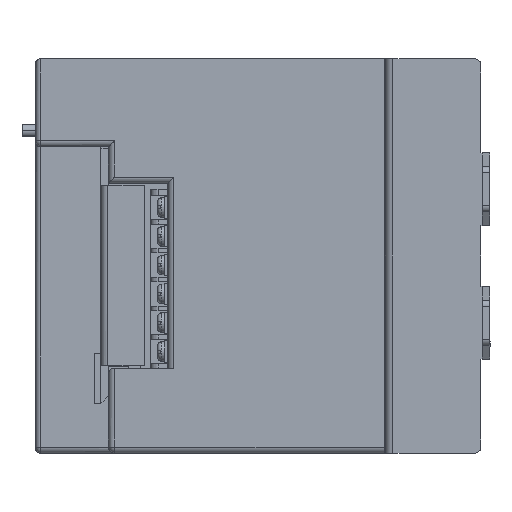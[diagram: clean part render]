
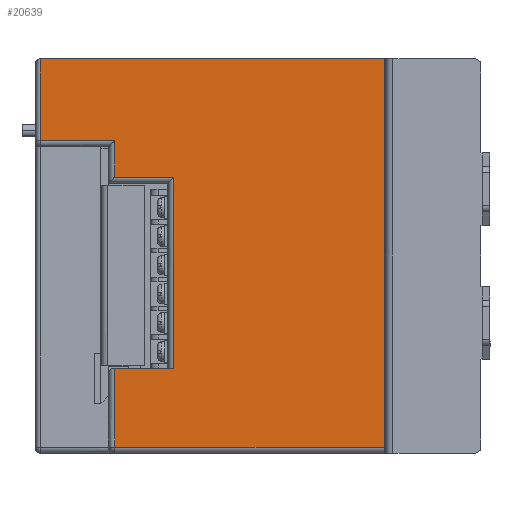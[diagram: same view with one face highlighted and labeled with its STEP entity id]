
A CAD part, left-side view. The second image highlights one B-rep face of the part: STEP entity #20639.
In plain terms, the highlighted planar face has unit normal (-1, 0, 0) as drawn and (0, 1, 0) by its records, which use the part's own axes.
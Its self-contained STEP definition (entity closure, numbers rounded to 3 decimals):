
#1288 = VECTOR ( 'NONE', #24899, 1000. ) ;
#3848 = EDGE_CURVE ( 'NONE', #20329, #10426, #8574, .T. ) ;
#4516 = ORIENTED_EDGE ( 'NONE', *, *, #8361, .F. ) ;
#4569 = CARTESIAN_POINT ( 'NONE',  ( 63., 88., 0. ) ) ;
#4937 = DIRECTION ( 'NONE',  ( 0., 0., 1. ) ) ;
#5532 = DIRECTION ( 'NONE',  ( 0., 0., 1. ) ) ;
#5680 = ORIENTED_EDGE ( 'NONE', *, *, #16944, .F. ) ;
#7242 = VECTOR ( 'NONE', #5532, 1000. ) ;
#8206 = DIRECTION ( 'NONE',  ( 0., 0., 1. ) ) ;
#8361 = EDGE_CURVE ( 'NONE', #33220, #33489, #8683, .T. ) ;
#8401 = ORIENTED_EDGE ( 'NONE', *, *, #16667, .F. ) ;
#8574 = LINE ( 'NONE', #12704, #24104 ) ;
#8683 = LINE ( 'NONE', #27675, #38153 ) ;
#8921 = VECTOR ( 'NONE', #32453, 1000. ) ;
#9566 = CARTESIAN_POINT ( 'NONE',  ( -65., 88., 0. ) ) ;
#9592 = ORIENTED_EDGE ( 'NONE', *, *, #14060, .F. ) ;
#10260 = PLANE ( 'NONE',  #10375 ) ;
#10375 = AXIS2_PLACEMENT_3D ( 'NONE', #32645, #47327, #21462 ) ;
#10395 = EDGE_CURVE ( 'NONE', #22970, #20329, #47406, .T. ) ;
#10426 = VERTEX_POINT ( 'NONE', #40098 ) ;
#10856 = ORIENTED_EDGE ( 'NONE', *, *, #3848, .F. ) ;
#10858 = VERTEX_POINT ( 'NONE', #43593 ) ;
#10940 = CARTESIAN_POINT ( 'NONE',  ( 65., 88., 69.4 ) ) ;
#12330 = LINE ( 'NONE', #20339, #36333 ) ;
#12704 = CARTESIAN_POINT ( 'NONE',  ( 63., 88., 115. ) ) ;
#12819 = EDGE_CURVE ( 'NONE', #22970, #47563, #13278, .T. ) ;
#13023 = DIRECTION ( 'NONE',  ( -1., 0., 0. ) ) ;
#13171 = VECTOR ( 'NONE', #43759, 1000. ) ;
#13278 = LINE ( 'NONE', #17176, #28083 ) ;
#13303 = ORIENTED_EDGE ( 'NONE', *, *, #36309, .F. ) ;
#13518 = CARTESIAN_POINT ( 'NONE',  ( -38., 88., 115. ) ) ;
#14060 = EDGE_CURVE ( 'NONE', #39352, #35349, #14826, .T. ) ;
#14826 = LINE ( 'NONE', #23119, #15698 ) ;
#15698 = VECTOR ( 'NONE', #26525, 1000. ) ;
#16667 = EDGE_CURVE ( 'NONE', #10858, #32793, #34964, .T. ) ;
#16856 = CARTESIAN_POINT ( 'NONE',  ( 65., 88., 113.5 ) ) ;
#16944 = EDGE_CURVE ( 'NONE', #35349, #33220, #36774, .T. ) ;
#17176 = CARTESIAN_POINT ( 'NONE',  ( -65., 88., 115. ) ) ;
#18612 = ORIENTED_EDGE ( 'NONE', *, *, #44134, .F. ) ;
#19835 = ORIENTED_EDGE ( 'NONE', *, *, #10395, .F. ) ;
#20329 = VERTEX_POINT ( 'NONE', #4569 ) ;
#20339 = CARTESIAN_POINT ( 'NONE',  ( 65., 88., 89. ) ) ;
#20639 = ADVANCED_FACE ( 'NONE', ( #36324 ), #10260, .F. ) ;
#21281 = CARTESIAN_POINT ( 'NONE',  ( 65., 88., 89. ) ) ;
#21462 = DIRECTION ( 'NONE',  ( 1., 0., 0. ) ) ;
#22970 = VERTEX_POINT ( 'NONE', #9566 ) ;
#23119 = CARTESIAN_POINT ( 'NONE',  ( 37., 88., 115. ) ) ;
#24104 = VECTOR ( 'NONE', #4937, 1000. ) ;
#24899 = DIRECTION ( 'NONE',  ( -1., 0., 0. ) ) ;
#25426 = CARTESIAN_POINT ( 'NONE',  ( 37., 88., 89. ) ) ;
#25796 = DIRECTION ( 'NONE',  ( -1., 0., 0. ) ) ;
#26525 = DIRECTION ( 'NONE',  ( 0., 0., -1. ) ) ;
#26545 = CARTESIAN_POINT ( 'NONE',  ( -26., 88., 89. ) ) ;
#27675 = CARTESIAN_POINT ( 'NONE',  ( -26., 88., 115. ) ) ;
#28083 = VECTOR ( 'NONE', #40576, 1000. ) ;
#28302 = LINE ( 'NONE', #16856, #1288 ) ;
#28612 = CARTESIAN_POINT ( 'NONE',  ( -65., 88., 113.5 ) ) ;
#28858 = CARTESIAN_POINT ( 'NONE',  ( 65., 88., 0. ) ) ;
#32453 = DIRECTION ( 'NONE',  ( -1., 0., 0. ) ) ;
#32645 = CARTESIAN_POINT ( 'NONE',  ( 65., 88., 115. ) ) ;
#32793 = VERTEX_POINT ( 'NONE', #35480 ) ;
#32929 = LINE ( 'NONE', #21281, #8921 ) ;
#33220 = VERTEX_POINT ( 'NONE', #44924 ) ;
#33489 = VERTEX_POINT ( 'NONE', #26545 ) ;
#33666 = VECTOR ( 'NONE', #25796, 1000. ) ;
#34964 = LINE ( 'NONE', #13518, #7242 ) ;
#35349 = VERTEX_POINT ( 'NONE', #46899 ) ;
#35480 = CARTESIAN_POINT ( 'NONE',  ( -38., 88., 113.5 ) ) ;
#36309 = EDGE_CURVE ( 'NONE', #33489, #10858, #32929, .T. ) ;
#36319 = ORIENTED_EDGE ( 'NONE', *, *, #43694, .F. ) ;
#36324 = FACE_OUTER_BOUND ( 'NONE', #40218, .T. ) ;
#36333 = VECTOR ( 'NONE', #13023, 1000. ) ;
#36774 = LINE ( 'NONE', #10940, #33666 ) ;
#38153 = VECTOR ( 'NONE', #8206, 1000. ) ;
#39352 = VERTEX_POINT ( 'NONE', #25426 ) ;
#40098 = CARTESIAN_POINT ( 'NONE',  ( 63., 88., 89. ) ) ;
#40218 = EDGE_LOOP ( 'NONE', ( #13303, #4516, #5680, #9592, #36319, #10856, #19835, #41749, #18612, #8401 ) ) ;
#40576 = DIRECTION ( 'NONE',  ( 0., 0., 1. ) ) ;
#41749 = ORIENTED_EDGE ( 'NONE', *, *, #12819, .T. ) ;
#43593 = CARTESIAN_POINT ( 'NONE',  ( -38., 88., 89. ) ) ;
#43694 = EDGE_CURVE ( 'NONE', #10426, #39352, #12330, .T. ) ;
#43759 = DIRECTION ( 'NONE',  ( 1., 0., 0. ) ) ;
#44134 = EDGE_CURVE ( 'NONE', #32793, #47563, #28302, .T. ) ;
#44924 = CARTESIAN_POINT ( 'NONE',  ( -26., 88., 69.4 ) ) ;
#46899 = CARTESIAN_POINT ( 'NONE',  ( 37., 88., 69.4 ) ) ;
#47327 = DIRECTION ( 'NONE',  ( 0., -1., 0. ) ) ;
#47406 = LINE ( 'NONE', #28858, #13171 ) ;
#47563 = VERTEX_POINT ( 'NONE', #28612 ) ;
